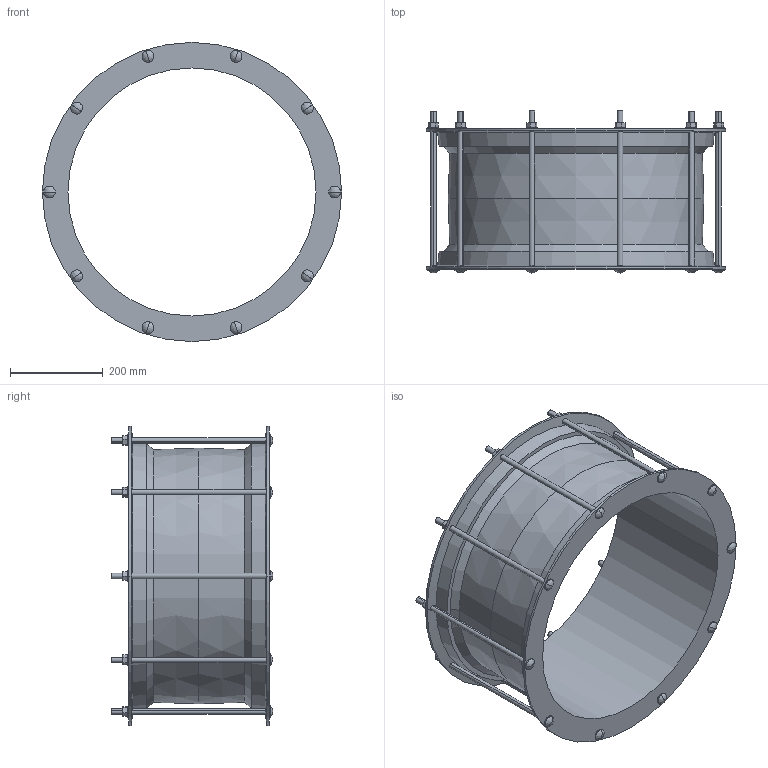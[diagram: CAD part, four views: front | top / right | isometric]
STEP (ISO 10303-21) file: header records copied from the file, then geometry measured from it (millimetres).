
FILE_DESCRIPTION((''),'2;1');
FILE_NAME('MAXIFIT_515_532','2018-12-18T',('mfairey'),('Glynwed Pipe Systems'),'CREO PARAMETRIC BY PTC INC, 2016130','CREO PARAMETRIC BY PTC INC, 2016130','');
FILE_SCHEMA(('CONFIG_CONTROL_DESIGN'));
Length unit declared in the file: millimetre
Products named in the file (1): MAXIFIT_515_532
Bounding box: 644 x 348 x 644 mm (x, y, z)
Volume: 7820185.4 mm3; surface area: 1504983 mm2
Topology: 1 solids, 1 shells, 216 faces, 524 edges, 328 vertices
Faces by surface type: plane 94, cylinder 86, bspline 20, cone 16
Entity records: 7706 total; most frequent: CARTESIAN_POINT 2682, DIRECTION 1018, ORIENTED_EDGE 1008, EDGE_CURVE 504, AXIS2_PLACEMENT_3D 366, VERTEX_POINT 328, VECTOR 286, LINE 286
